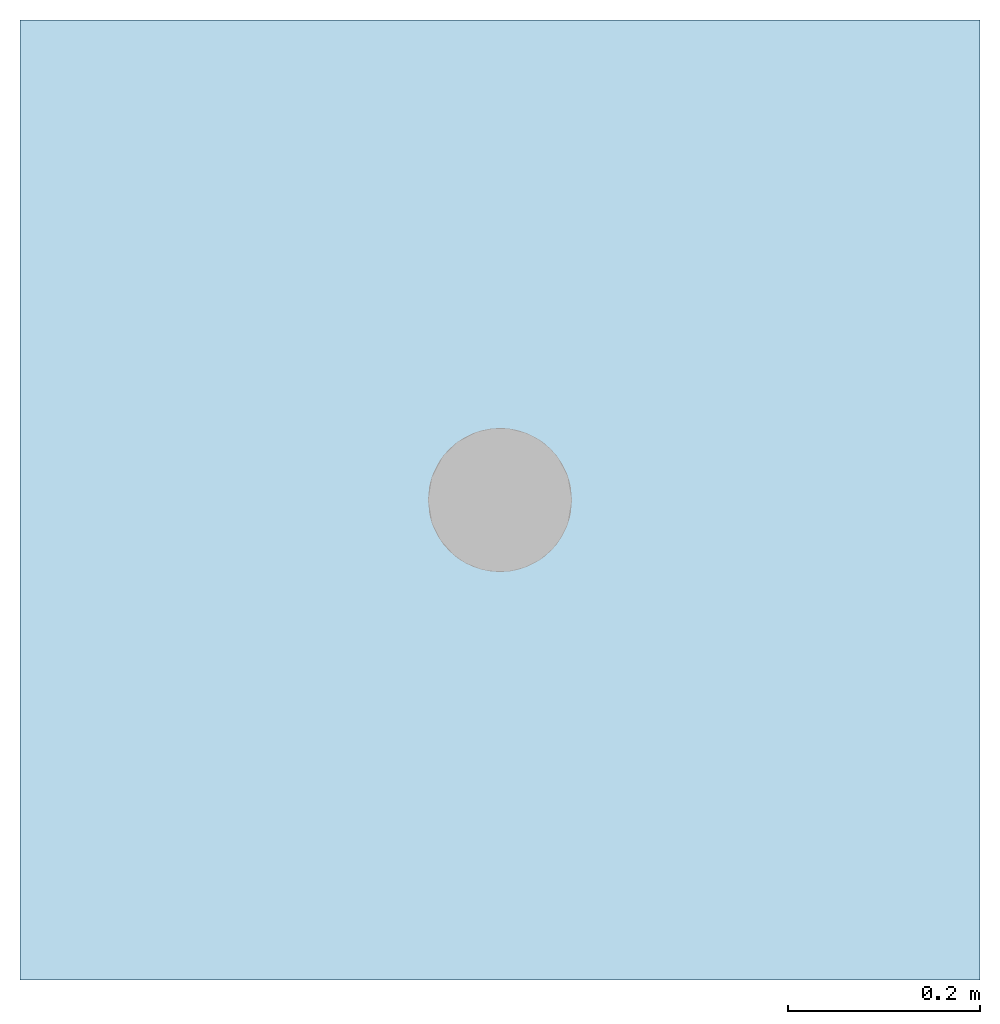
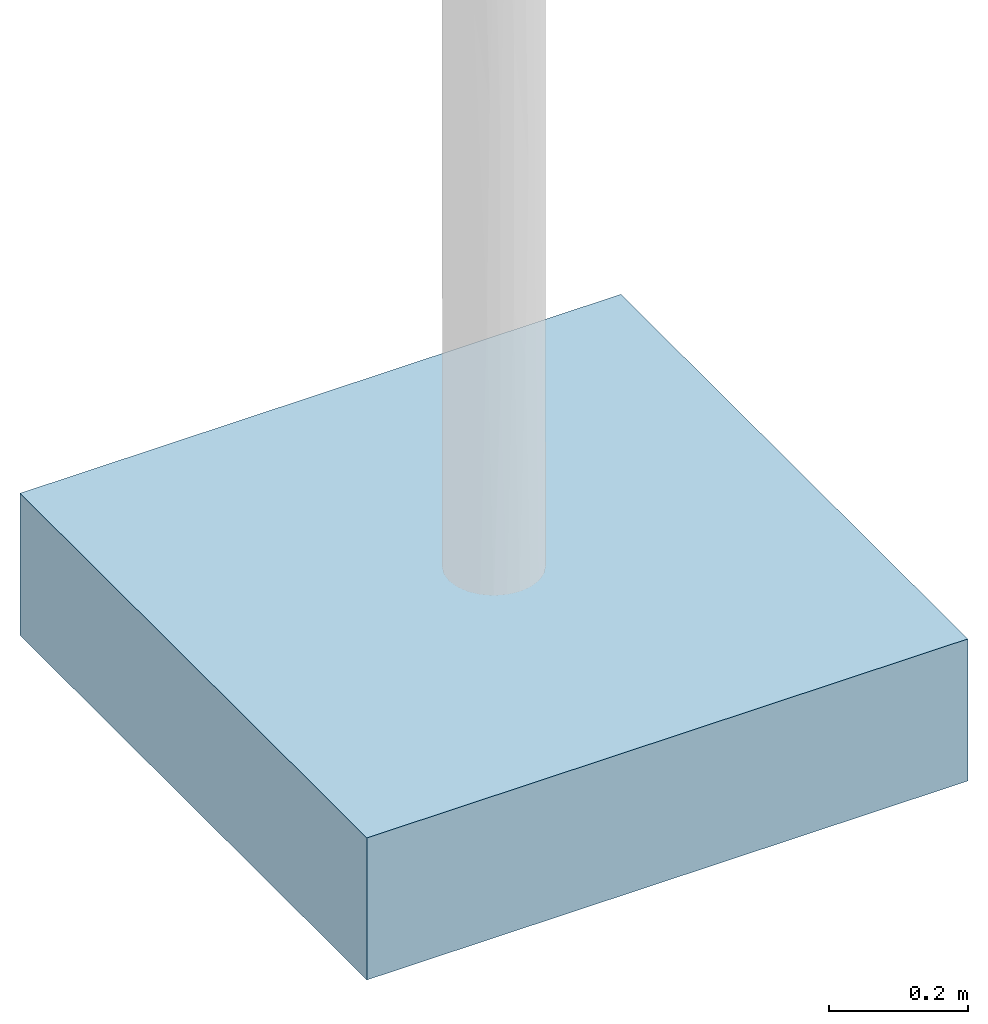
# One storey, incomplete: 1 slab.
"""IFC4 building model written with IfcOpenShell, lengths in metres."""

from ifc_helpers import new_model, entity, si_unit, converted_unit, direction, frame, origin, origin_2d_with_axis, place, context, subcontext, project, spatial, rectangle, extrude, material, type_object, element, save


model = new_model("IFC4")

# Units and contexts
model_context = context("Model", 3, precision=1e-05, world=origin(), true_north=direction((6.123031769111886e-17, 1.0)))
body_context = subcontext(model_context, "Body", "Model", "MODEL_VIEW")
ifc_project = project(units=[si_unit("LENGTHUNIT", "METRE"), converted_unit("PLANEANGLEUNIT", "DEGREE", entity("IfcPlaneAngleMeasure", 0.017453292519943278), si_unit("PLANEANGLEUNIT", "RADIAN"), dimensions=[0, 0, 0, 0, 0, 0, 0]), si_unit("AREAUNIT", "SQUARE_METRE")], contexts=[model_context])

# Site, building, storey
site_placement = place(None, origin())
site = spatial("IfcSite", under=ifc_project, at=site_placement, Name="Default", CompositionType="ELEMENT")
building_placement = place(site_placement, origin())
building = spatial("IfcBuilding", under=site, at=building_placement, CompositionType="ELEMENT")
storey_placement = place(building_placement, origin())
storey = spatial("IfcBuildingStorey", under=building, at=storey_placement, Name="DB_Bezugshoehe_max_Bahnsteigkante", CompositionType="ELEMENT", Elevation=0.0)

# Slab
ifc_material = material(Name="DB_Gusseisen_RAL7036", Category="DB_Aluminium")
slab_type = type_object("IfcSlabType", Name="DB_EtA_Fundament:DB_EtA_Fundament", PredefinedType="BASESLAB", material=ifc_material)
slab_placement = place(storey_placement, origin())
element("IfcSlab", 1, at=slab_placement, inside=storey, type_object=slab_type, Name="DB_EtA_Fundament:DB_EtA_Fundament", ObjectType="DB_EtA_Fundament:DB_EtA_Fundament", PredefinedType="BASESLAB", context=body_context, shape_type="SweptSolid", body=[
    extrude(rectangle(XDim=1.0, YDim=1.0, at=origin_2d_with_axis()), frame((0.0, 0.0, -0.5499999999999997), z_axis=(0.0, 0.0, 1.0), x_axis=(-1.0, 0.0, 0.0)), (0.0, 0.0, 1.0), 0.24999999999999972),
])

save(model, "model.ifc")
